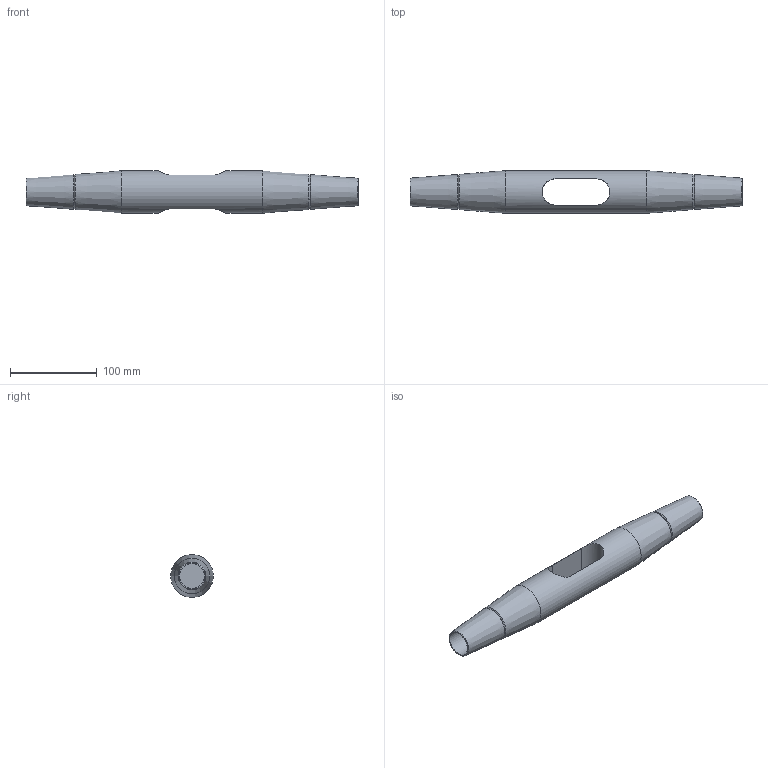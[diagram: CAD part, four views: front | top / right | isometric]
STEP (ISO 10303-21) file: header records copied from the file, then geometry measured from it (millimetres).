
FILE_DESCRIPTION(/* description */ (''),/* implementation_level */ '2;1');
FILE_NAME(/* name */ 'G:\Engineering\700 CAD\Internet-PX-1-step-igs-dxf\520-KMF-Arbeitsdateien\520-027-KMF.stp',/* time_stamp */ '2020-07-02T13:20:39+02:00',/* author */ ('schwarz'),/* organization */ (''),/* preprocessor_version */ 'ST-DEVELOPER v16.1',/* originating_system */ 'Autodesk Inventor 2016',/* authorisation */ '');
FILE_SCHEMA (('AUTOMOTIVE_DESIGN { 1 0 10303 214 3 1 1 }'));
Length unit declared in the file: centimetre
Products named in the file (1): Kreuzmuffen-Set 520 027 Kunde
Bounding box: 382 x 49 x 49 mm (x, y, z)
Volume: 439469.7 mm3; surface area: 65482.9 mm2
Topology: 1 solids, 1 shells, 21 faces, 43 edges, 26 vertices
Faces by surface type: cone 10, plane 6, cylinder 5
Full cylindrical faces by diameter (mm): 28.5 x2, 49 x1
Entity records: 621 total; most frequent: CARTESIAN_POINT 174, DIRECTION 84, ORIENTED_EDGE 56, EDGE_LOOP 38, AXIS2_PLACEMENT_3D 38, EDGE_CURVE 28, VERTEX_POINT 24, STYLED_ITEM 22
